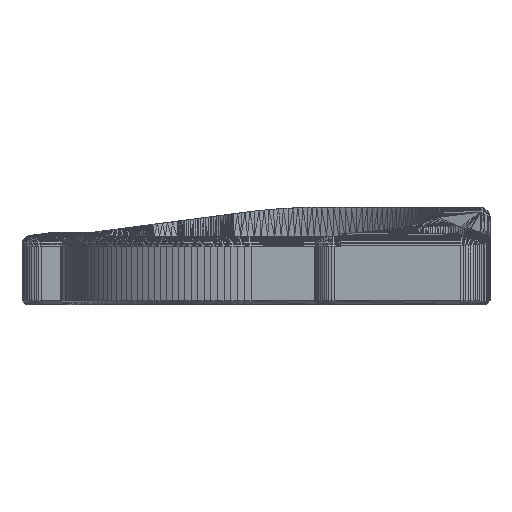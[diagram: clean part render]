
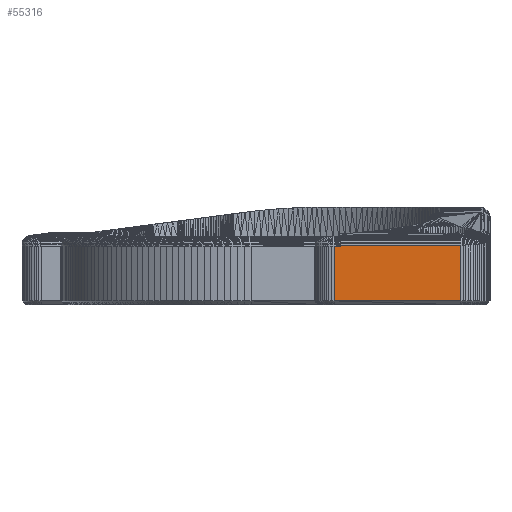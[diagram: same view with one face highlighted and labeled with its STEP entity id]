
A CAD part, front view. The second image highlights one B-rep face of the part: STEP entity #55316.
In plain terms, the highlighted planar face has unit normal (0, -1, 0).
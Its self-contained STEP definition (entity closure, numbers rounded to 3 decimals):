
#55182 = VERTEX_POINT('',#55183);
#55183 = CARTESIAN_POINT('',(89.471,0.788,
    6.123));
#55223 = PLANE('',#55224);
#55224 = AXIS2_PLACEMENT_3D('',#55225,#55226,#55227);
#55225 = CARTESIAN_POINT('',(89.471,0.788,
    0.4));
#55226 = DIRECTION('',(0.044,-0.999,-0.));
#55227 = DIRECTION('',(-0.999,-0.044,0.));
#55242 = VERTEX_POINT('',#55243);
#55243 = CARTESIAN_POINT('',(89.471,0.788,
    0.4));
#55291 = EDGE_CURVE('',#55182,#55242,#55292,.T.);
#55292 = SURFACE_CURVE('',#55293,(#55297,#55304),.PCURVE_S1.);
#55293 = LINE('',#55294,#55295);
#55294 = CARTESIAN_POINT('',(89.471,0.788,
    6.123));
#55295 = VECTOR('',#55296,1.);
#55296 = DIRECTION('',(0.,0.,-1.));
#55297 = PCURVE('',#55223,#55298);
#55298 = DEFINITIONAL_REPRESENTATION('',(#55299),#55303);
#55299 = LINE('',#55300,#55301);
#55300 = CARTESIAN_POINT('',(0.,-5.723));
#55301 = VECTOR('',#55302,1.);
#55302 = DIRECTION('',(-0.,1.));
#55303 = ( GEOMETRIC_REPRESENTATION_CONTEXT(2) 
PARAMETRIC_REPRESENTATION_CONTEXT() REPRESENTATION_CONTEXT('2D SPACE',''
  ) );
#55304 = PCURVE('',#55305,#55310);
#55305 = PLANE('',#55306);
#55306 = AXIS2_PLACEMENT_3D('',#55307,#55308,#55309);
#55307 = CARTESIAN_POINT('',(77.126,0.788,6.));
#55308 = DIRECTION('',(0.,-1.,0.));
#55309 = DIRECTION('',(0.,-0.,-1.));
#55310 = DEFINITIONAL_REPRESENTATION('',(#55311),#55315);
#55311 = LINE('',#55312,#55313);
#55312 = CARTESIAN_POINT('',(-0.123,12.345));
#55313 = VECTOR('',#55314,1.);
#55314 = DIRECTION('',(1.,0.));
#55315 = ( GEOMETRIC_REPRESENTATION_CONTEXT(2) 
PARAMETRIC_REPRESENTATION_CONTEXT() REPRESENTATION_CONTEXT('2D SPACE',''
  ) );
#55316 = ADVANCED_FACE('',(#55317),#55305,.T.);
#55317 = FACE_BOUND('',#55318,.T.);
#55318 = EDGE_LOOP('',(#55319,#55349,#55377,#55403,#55404,#55432));
#55319 = ORIENTED_EDGE('',*,*,#55320,.F.);
#55320 = EDGE_CURVE('',#55321,#55323,#55325,.T.);
#55321 = VERTEX_POINT('',#55322);
#55322 = CARTESIAN_POINT('',(76.471,0.788,6.));
#55323 = VERTEX_POINT('',#55324);
#55324 = CARTESIAN_POINT('',(77.126,0.788,6.));
#55325 = SURFACE_CURVE('',#55326,(#55330,#55337),.PCURVE_S1.);
#55326 = LINE('',#55327,#55328);
#55327 = CARTESIAN_POINT('',(76.471,0.788,6.));
#55328 = VECTOR('',#55329,1.);
#55329 = DIRECTION('',(1.,0.,0.));
#55330 = PCURVE('',#55305,#55331);
#55331 = DEFINITIONAL_REPRESENTATION('',(#55332),#55336);
#55332 = LINE('',#55333,#55334);
#55333 = CARTESIAN_POINT('',(-0.,-0.655));
#55334 = VECTOR('',#55335,1.);
#55335 = DIRECTION('',(0.,1.));
#55336 = ( GEOMETRIC_REPRESENTATION_CONTEXT(2) 
PARAMETRIC_REPRESENTATION_CONTEXT() REPRESENTATION_CONTEXT('2D SPACE',''
  ) );
#55337 = PCURVE('',#55338,#55343);
#55338 = PLANE('',#55339);
#55339 = AXIS2_PLACEMENT_3D('',#55340,#55341,#55342);
#55340 = CARTESIAN_POINT('',(76.471,0.788,6.));
#55341 = DIRECTION('',(0.,-0.997,0.078));
#55342 = DIRECTION('',(0.,-0.078,-0.997));
#55343 = DEFINITIONAL_REPRESENTATION('',(#55344),#55348);
#55344 = LINE('',#55345,#55346);
#55345 = CARTESIAN_POINT('',(0.,0.));
#55346 = VECTOR('',#55347,1.);
#55347 = DIRECTION('',(0.,1.));
#55348 = ( GEOMETRIC_REPRESENTATION_CONTEXT(2) 
PARAMETRIC_REPRESENTATION_CONTEXT() REPRESENTATION_CONTEXT('2D SPACE',''
  ) );
#55349 = ORIENTED_EDGE('',*,*,#55350,.F.);
#55350 = EDGE_CURVE('',#55351,#55321,#55353,.T.);
#55351 = VERTEX_POINT('',#55352);
#55352 = CARTESIAN_POINT('',(76.471,0.788,
    0.4));
#55353 = SURFACE_CURVE('',#55354,(#55358,#55365),.PCURVE_S1.);
#55354 = LINE('',#55355,#55356);
#55355 = CARTESIAN_POINT('',(76.471,0.788,
    0.4));
#55356 = VECTOR('',#55357,1.);
#55357 = DIRECTION('',(0.,0.,1.));
#55358 = PCURVE('',#55305,#55359);
#55359 = DEFINITIONAL_REPRESENTATION('',(#55360),#55364);
#55360 = LINE('',#55361,#55362);
#55361 = CARTESIAN_POINT('',(5.6,-0.655));
#55362 = VECTOR('',#55363,1.);
#55363 = DIRECTION('',(-1.,0.));
#55364 = ( GEOMETRIC_REPRESENTATION_CONTEXT(2) 
PARAMETRIC_REPRESENTATION_CONTEXT() REPRESENTATION_CONTEXT('2D SPACE',''
  ) );
#55365 = PCURVE('',#55366,#55371);
#55366 = PLANE('',#55367);
#55367 = AXIS2_PLACEMENT_3D('',#55368,#55369,#55370);
#55368 = CARTESIAN_POINT('',(76.21,0.805,
    0.4));
#55369 = DIRECTION('',(-0.065,-0.998,
    0.));
#55370 = DIRECTION('',(-0.998,0.065,0.));
#55371 = DEFINITIONAL_REPRESENTATION('',(#55372),#55376);
#55372 = LINE('',#55373,#55374);
#55373 = CARTESIAN_POINT('',(-0.262,0.));
#55374 = VECTOR('',#55375,1.);
#55375 = DIRECTION('',(0.,-1.));
#55376 = ( GEOMETRIC_REPRESENTATION_CONTEXT(2) 
PARAMETRIC_REPRESENTATION_CONTEXT() REPRESENTATION_CONTEXT('2D SPACE',''
  ) );
#55377 = ORIENTED_EDGE('',*,*,#55378,.F.);
#55378 = EDGE_CURVE('',#55242,#55351,#55379,.T.);
#55379 = SURFACE_CURVE('',#55380,(#55384,#55391),.PCURVE_S1.);
#55380 = LINE('',#55381,#55382);
#55381 = CARTESIAN_POINT('',(89.471,0.788,
    0.4));
#55382 = VECTOR('',#55383,1.);
#55383 = DIRECTION('',(-1.,0.,0.));
#55384 = PCURVE('',#55305,#55385);
#55385 = DEFINITIONAL_REPRESENTATION('',(#55386),#55390);
#55386 = LINE('',#55387,#55388);
#55387 = CARTESIAN_POINT('',(5.6,12.345));
#55388 = VECTOR('',#55389,1.);
#55389 = DIRECTION('',(-0.,-1.));
#55390 = ( GEOMETRIC_REPRESENTATION_CONTEXT(2) 
PARAMETRIC_REPRESENTATION_CONTEXT() REPRESENTATION_CONTEXT('2D SPACE',''
  ) );
#55391 = PCURVE('',#55392,#55397);
#55392 = PLANE('',#55393);
#55393 = AXIS2_PLACEMENT_3D('',#55394,#55395,#55396);
#55394 = CARTESIAN_POINT('',(76.471,0.788,
    0.4));
#55395 = DIRECTION('',(0.,-0.707,-0.707));
#55396 = DIRECTION('',(0.,0.707,-0.707));
#55397 = DEFINITIONAL_REPRESENTATION('',(#55398),#55402);
#55398 = LINE('',#55399,#55400);
#55399 = CARTESIAN_POINT('',(0.,13.));
#55400 = VECTOR('',#55401,1.);
#55401 = DIRECTION('',(0.,-1.));
#55402 = ( GEOMETRIC_REPRESENTATION_CONTEXT(2) 
PARAMETRIC_REPRESENTATION_CONTEXT() REPRESENTATION_CONTEXT('2D SPACE',''
  ) );
#55403 = ORIENTED_EDGE('',*,*,#55291,.F.);
#55404 = ORIENTED_EDGE('',*,*,#55405,.F.);
#55405 = EDGE_CURVE('',#55406,#55182,#55408,.T.);
#55406 = VERTEX_POINT('',#55407);
#55407 = CARTESIAN_POINT('',(77.126,0.788,
    6.123));
#55408 = SURFACE_CURVE('',#55409,(#55413,#55420),.PCURVE_S1.);
#55409 = LINE('',#55410,#55411);
#55410 = CARTESIAN_POINT('',(77.126,0.788,
    6.123));
#55411 = VECTOR('',#55412,1.);
#55412 = DIRECTION('',(1.,0.,0.));
#55413 = PCURVE('',#55305,#55414);
#55414 = DEFINITIONAL_REPRESENTATION('',(#55415),#55419);
#55415 = LINE('',#55416,#55417);
#55416 = CARTESIAN_POINT('',(-0.123,0.));
#55417 = VECTOR('',#55418,1.);
#55418 = DIRECTION('',(0.,1.));
#55419 = ( GEOMETRIC_REPRESENTATION_CONTEXT(2) 
PARAMETRIC_REPRESENTATION_CONTEXT() REPRESENTATION_CONTEXT('2D SPACE',''
  ) );
#55420 = PCURVE('',#55421,#55426);
#55421 = PLANE('',#55422);
#55422 = AXIS2_PLACEMENT_3D('',#55423,#55424,#55425);
#55423 = CARTESIAN_POINT('',(89.471,0.798,
    6.267));
#55424 = DIRECTION('',(-0.,-0.997,0.072));
#55425 = DIRECTION('',(0.,-0.072,-0.997));
#55426 = DEFINITIONAL_REPRESENTATION('',(#55427),#55431);
#55427 = LINE('',#55428,#55429);
#55428 = CARTESIAN_POINT('',(0.144,-12.345));
#55429 = VECTOR('',#55430,1.);
#55430 = DIRECTION('',(0.,1.));
#55431 = ( GEOMETRIC_REPRESENTATION_CONTEXT(2) 
PARAMETRIC_REPRESENTATION_CONTEXT() REPRESENTATION_CONTEXT('2D SPACE',''
  ) );
#55432 = ORIENTED_EDGE('',*,*,#55433,.F.);
#55433 = EDGE_CURVE('',#55323,#55406,#55434,.T.);
#55434 = SURFACE_CURVE('',#55435,(#55439,#55446),.PCURVE_S1.);
#55435 = LINE('',#55436,#55437);
#55436 = CARTESIAN_POINT('',(77.126,0.788,6.));
#55437 = VECTOR('',#55438,1.);
#55438 = DIRECTION('',(0.,0.,1.));
#55439 = PCURVE('',#55305,#55440);
#55440 = DEFINITIONAL_REPRESENTATION('',(#55441),#55445);
#55441 = LINE('',#55442,#55443);
#55442 = CARTESIAN_POINT('',(0.,0.));
#55443 = VECTOR('',#55444,1.);
#55444 = DIRECTION('',(-1.,0.));
#55445 = ( GEOMETRIC_REPRESENTATION_CONTEXT(2) 
PARAMETRIC_REPRESENTATION_CONTEXT() REPRESENTATION_CONTEXT('2D SPACE',''
  ) );
#55446 = PCURVE('',#55447,#55452);
#55447 = PLANE('',#55448);
#55448 = AXIS2_PLACEMENT_3D('',#55449,#55450,#55451);
#55449 = CARTESIAN_POINT('',(77.126,6.788,
    7.263));
#55450 = DIRECTION('',(-1.,-0.,0.));
#55451 = DIRECTION('',(-0.,0.,-1.));
#55452 = DEFINITIONAL_REPRESENTATION('',(#55453),#55457);
#55453 = LINE('',#55454,#55455);
#55454 = CARTESIAN_POINT('',(1.263,6.));
#55455 = VECTOR('',#55456,1.);
#55456 = DIRECTION('',(-1.,0.));
#55457 = ( GEOMETRIC_REPRESENTATION_CONTEXT(2) 
PARAMETRIC_REPRESENTATION_CONTEXT() REPRESENTATION_CONTEXT('2D SPACE',''
  ) );
